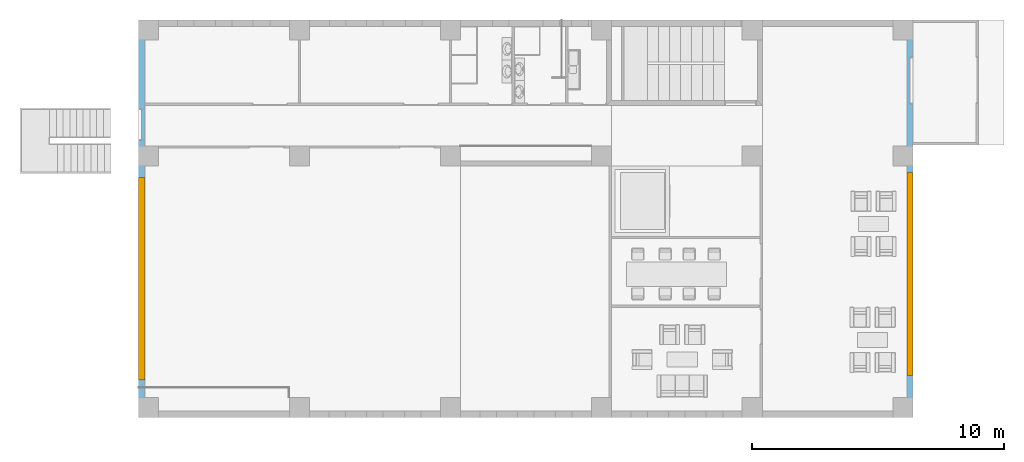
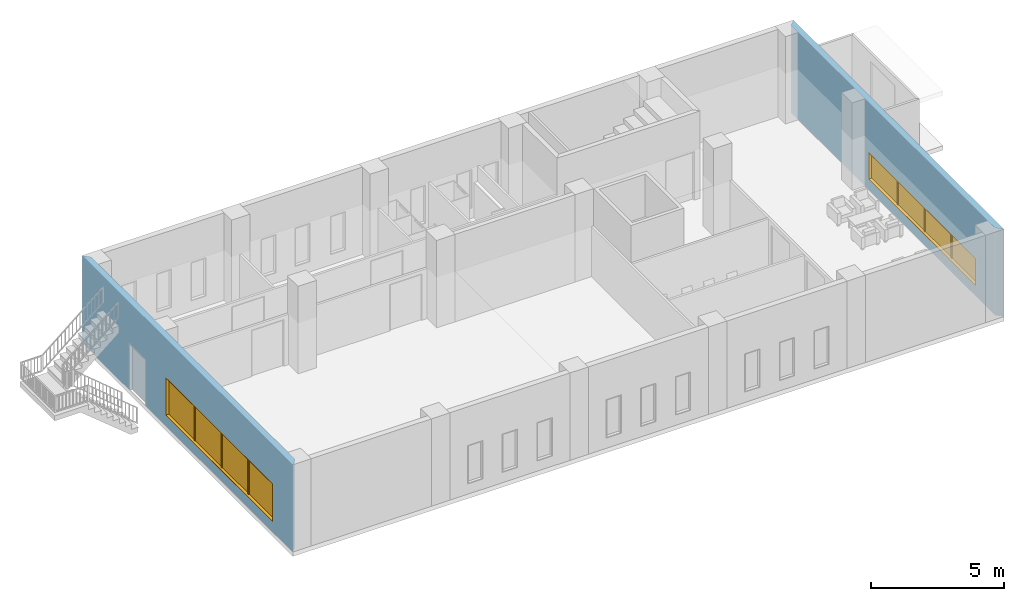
# One storey, part 7 of 17: 2 windows, 4 openings, plus 2 elements that do not belong to this part.
"""IFC2X3 building model written with IfcOpenShell, lengths in millimetres."""

from ifc_helpers import new_model, entity, si_unit, converted_unit, direction, frame, origin_with_axes, origin_2d_with_axis, place, context, project, spatial, polyline, rectangle, outline, extrude, open_shell, faceted_brep, surface_model, material, layer, layer_set, layer_usage, type_object, element, fill, save


model = new_model("IFC2X3")

# Units and contexts
model_context = context("Model", 3, precision=1e-05, world=origin_with_axes(), true_north=direction((0.0, 1.0)))
ifc_project = project(units=[si_unit("LENGTHUNIT", "METRE", prefix="MILLI"), si_unit("AREAUNIT", "SQUARE_METRE"), si_unit("VOLUMEUNIT", "CUBIC_METRE"), converted_unit("PLANEANGLEUNIT", "DEGREE", entity("IfcPlaneAngleMeasure", 0.017453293), si_unit("PLANEANGLEUNIT", "RADIAN"), dimensions=[0, 0, 0, 0, 0, 0, 0]), si_unit("SOLIDANGLEUNIT", "STERADIAN"), si_unit("MASSUNIT", "GRAM"), si_unit("TIMEUNIT", "SECOND"), si_unit("THERMODYNAMICTEMPERATUREUNIT", "DEGREE_CELSIUS"), si_unit("LUMINOUSINTENSITYUNIT", "LUMEN")], contexts=[model_context])

# Site, building, storey
site_placement = place(None, origin_with_axes())
site = spatial("IfcSite", under=ifc_project, at=site_placement, Name="\x83T\x83C\x83g", CompositionType="ELEMENT")
building_placement = place(site_placement, origin_with_axes())
building = spatial("IfcBuilding", under=site, at=building_placement, Name="Daitec-Sample 201208", CompositionType="ELEMENT")
storey_placement = place(building_placement, origin_with_axes())
storey = spatial("IfcBuildingStorey", under=building, at=storey_placement, Name="1F", CompositionType="ELEMENT", Elevation=0.0)

# Wall, openings, window
ifc_material_1 = material(Name="\x83R\x83\x93\x83N\x83\x8a\x81[\x83g-\x8d\\\x91¢2")
ifc_layer = layer(ifc_material_1, 250.0, ventilated="UNKNOWN")
ifc_layer_set = layer_set([ifc_layer], Name="\x83R\x83\x93\x83N\x83\x8a\x81[\x83g-\x8d\\\x91¢2 250")
ifc_layer_usage_1 = layer_usage(ifc_layer_set, "AXIS2", "POSITIVE", 0.0)
wall_type = type_object("IfcWallType", Name="\x83R\x83\x93\x83N\x83\x8a\x81[\x83g-\x8d\\\x91¢2 250", PredefinedType="NOTDEFINED")
wall_1_placement = place(storey_placement, frame((36900.0, 8000.0, 0.0), z_axis=(0.0, 0.0, 1.0), x_axis=(0.0, 1.0, 0.0)))
wall_1 = element("IfcWallStandardCase", 1, at=wall_1_placement, inside=storey, type_object=wall_type, material=ifc_layer_usage_1, Name="W7", context=model_context, shape_type="SweptSolid", body=[
    extrude(outline(polyline([(0.0, 0.0), (15800.0, 0.0), (15550.0, 250.0), (250.0, 250.0), (0.0, 0.0)])), origin_with_axes(), (0.0, 0.0, 1.0), 4000.0),
])
opening_1_placement = place(wall_1_placement, frame((5705.9474, 0.0, 500.0), z_axis=(0.0, 0.0, 1.0), x_axis=(1.0, 0.0, 0.0)))
opening_1 = element("IfcOpeningElement", 2, at=opening_1_placement, cuts=wall_1, context=model_context, shape_type="SweptSolid", body=[
    extrude(rectangle(XDim=8000.0, YDim=1200.0, at=origin_2d_with_axis()), frame((0.0, -1.0, 600.0), z_axis=(0.0, 1.0, 0.0), x_axis=(1.0, 0.0, 0.0)), (0.0, 0.0, 1.0), 252.0),
    extrude(rectangle(XDim=8000.0, YDim=1200.0, at=origin_2d_with_axis()), frame((0.0, 1.0, 600.0), z_axis=(0.0, -1.0, 0.0), x_axis=(1.0, 0.0, 0.0)), (0.0, 0.0, 1.0), 252.0),
    extrude(rectangle(XDim=8060.0, YDim=1260.0, at=origin_2d_with_axis()), frame((0.0, 126.0, 600.0), z_axis=(0.0, -1.0, 0.0), x_axis=(1.0, 0.0, 0.0)), (0.0, 0.0, 1.0), 252.0),
])
opening_2_placement = place(wall_1_placement, frame((13394.849, 0.0, 0.0), z_axis=(0.0, 0.0, 1.0), x_axis=(1.0, 0.0, 0.0)))
element("IfcOpeningElement", 3, at=opening_2_placement, cuts=wall_1, context=model_context, shape_type="SweptSolid", body=[
    extrude(rectangle(XDim=1860.0, YDim=2130.0, at=origin_2d_with_axis()), frame((0.0, 126.0, 1065.0), z_axis=(0.0, -1.0, 0.0), x_axis=(1.0, 0.0, 0.0)), (0.0, 0.0, 1.0), 252.0),
])
ifc_material_2 = material(Name="\x94w\x8ci")
window_style = type_object("IfcWindowStyle", Name="\x98A\x91\x95\x91\x8b\x82P_JX5", ConstructionType="NOTDEFINED", OperationType="NOTDEFINED", ParameterTakesPrecedence=False, Sizeable=False)
window_1_placement = place(opening_1_placement, frame((-4000.0, 0.0, 0.0), z_axis=(0.0, 0.0, 1.0), x_axis=(1.0, 0.0, 0.0)))
window_1 = element("IfcWindow", 4, at=window_1_placement, inside=storey, type_object=window_style, material=ifc_material_2, Name="AW7", OverallHeight=1200.0, OverallWidth=8000.0, context=model_context, shape_type="SurfaceModel", body=[
    surface_model("IfcShellBasedSurfaceModel", [(8000.0, 125.0, 0.0), (8000.0, 125.0, 1200.0), (6052.5, 125.0, 1200.0), (6052.5, 125.0, 0.0)], [open_shell([[[0, 1, 2, 3]]])]),
    surface_model("IfcShellBasedSurfaceModel", [(5982.5, 125.0, 0.0), (5982.5, 125.0, 1200.0), (4035.0, 125.0, 1200.0), (4035.0, 125.0, 0.0)], [open_shell([[[0, 1, 2, 3]]])]),
    surface_model("IfcShellBasedSurfaceModel", [(3965.0, 125.0, 0.0), (3965.0, 125.0, 1200.0), (2017.5, 125.0, 1200.0), (2017.5, 125.0, 0.0)], [open_shell([[[0, 1, 2, 3]]])]),
    surface_model("IfcShellBasedSurfaceModel", [(1947.5, 125.0, 0.0), (1947.5, 125.0, 1200.0), (0.0, 125.0, 1200.0), (0.0, 125.0, 0.0)], [open_shell([[[0, 1, 2, 3]]])]),
    faceted_brep([(6052.5, 160.0, 0.0), (5982.5, 160.0, 0.0), (5982.5, 160.0, 1200.0), (6052.5, 160.0, 1200.0), (6052.5, 90.0, 0.0), (5982.5, 90.0, 0.0), (5982.5, 90.0, 1200.0), (6052.5, 90.0, 1200.0)], [[[0, 1, 2, 3]], [[0, 4, 5, 1]], [[1, 5, 6, 2]], [[3, 2, 6, 7]], [[4, 0, 3, 7]], [[5, 4, 7, 6]]]),
    faceted_brep([(4035.0, 160.0, 0.0), (3965.0, 160.0, 0.0), (3965.0, 160.0, 1200.0), (4035.0, 160.0, 1200.0), (4035.0, 90.0, 0.0), (3965.0, 90.0, 0.0), (3965.0, 90.0, 1200.0), (4035.0, 90.0, 1200.0)], [[[0, 1, 2, 3]], [[0, 4, 5, 1]], [[1, 5, 6, 2]], [[3, 2, 6, 7]], [[4, 0, 3, 7]], [[5, 4, 7, 6]]]),
    faceted_brep([(2017.5, 160.0, 0.0), (1947.5, 160.0, 0.0), (1947.5, 160.0, 1200.0), (2017.5, 160.0, 1200.0), (2017.5, 90.0, 0.0), (1947.5, 90.0, 0.0), (1947.5, 90.0, 1200.0), (2017.5, 90.0, 1200.0)], [[[0, 1, 2, 3]], [[0, 4, 5, 1]], [[1, 5, 6, 2]], [[3, 2, 6, 7]], [[4, 0, 3, 7]], [[5, 4, 7, 6]]]),
    surface_model("IfcShellBasedSurfaceModel", [(8030.0, 0.0, -30.0), (8030.0, 0.0, 1230.0), (-30.0, 0.0, 1230.0), (-30.0, 0.0, -30.0), (8000.0, 0.0, 0.0), (0.0, 0.0, 0.0), (0.0, 0.0, 1200.0), (8000.0, 0.0, 1200.0)], [open_shell([[[0, 1, 2, 3], [4, 5, 6, 7]]])]),
    surface_model("IfcShellBasedSurfaceModel", [(8030.0, 250.0, -30.0), (8030.0, 250.0, 1230.0), (-30.0, 250.0, 1230.0), (-30.0, 250.0, -30.0), (8000.0, 250.0, 0.0), (0.0, 250.0, 0.0), (0.0, 250.0, 1200.0), (8000.0, 250.0, 1200.0)], [open_shell([[[0, 1, 2, 3], [4, 5, 6, 7]]])]),
    surface_model("IfcShellBasedSurfaceModel", [(8030.0, 0.0, -30.0), (-30.0, 0.0, -30.0), (-30.0, 250.0, -30.0), (8030.0, 250.0, -30.0), (-30.0, 0.0, 1230.0), (-30.0, 250.0, 1230.0), (8030.0, 0.0, 1230.0), (8030.0, 250.0, 1230.0)], [open_shell([[[0, 1, 2, 3]], [[1, 4, 5, 2]], [[6, 0, 3, 7]], [[4, 6, 7, 5]]])]),
    surface_model("IfcShellBasedSurfaceModel", [(8000.0, 0.0, 0.0), (0.0, 0.0, 0.0), (0.0, 250.0, 0.0), (8000.0, 250.0, 0.0), (0.0, 0.0, 1200.0), (0.0, 250.0, 1200.0), (8000.0, 0.0, 1200.0), (8000.0, 250.0, 1200.0)], [open_shell([[[0, 1, 2, 3]], [[1, 4, 5, 2]], [[6, 0, 3, 7]], [[4, 6, 7, 5]]])]),
])
fill(opening_1, window_1)

ifc_layer_usage_2 = layer_usage(ifc_layer_set, "AXIS2", "POSITIVE", 0.0)
wall_2_placement = place(storey_placement, frame((6100.0, 23800.0, 0.0), z_axis=(0.0, 0.0, 1.0), x_axis=(0.0, -1.0, 0.0)))
wall_2 = element("IfcWallStandardCase", 5, at=wall_2_placement, inside=storey, type_object=wall_type, material=ifc_layer_usage_2, Name="W9", context=model_context, shape_type="SweptSolid", body=[
    extrude(outline(polyline([(0.0, 0.0), (15800.0, 0.0), (15550.0, 250.0), (250.0, 250.0), (0.0, 0.0)])), origin_with_axes(), (0.0, 0.0, 1.0), 4000.0),
])
opening_3_placement = place(wall_2_placement, frame((10282.79, 0.0, 500.0), z_axis=(0.0, 0.0, 1.0), x_axis=(1.0, 0.0, 0.0)))
opening_3 = element("IfcOpeningElement", 6, at=opening_3_placement, cuts=wall_2, context=model_context, shape_type="SweptSolid", body=[
    extrude(rectangle(XDim=8000.0, YDim=1700.0, at=origin_2d_with_axis()), frame((0.0, 251.0, 850.0), z_axis=(0.0, -1.0, 0.0), x_axis=(1.0, 0.0, 0.0)), (0.0, 0.0, 1.0), 252.0),
    extrude(rectangle(XDim=8000.0, YDim=1700.0, at=origin_2d_with_axis()), frame((0.0, 249.0, 850.0), z_axis=(0.0, 1.0, 0.0), x_axis=(1.0, 0.0, 0.0)), (0.0, 0.0, 1.0), 252.0),
    extrude(rectangle(XDim=8060.0, YDim=1760.0, at=origin_2d_with_axis()), frame((0.0, 124.0, 850.0), z_axis=(0.0, 1.0, 0.0), x_axis=(1.0, 0.0, 0.0)), (0.0, 0.0, 1.0), 252.0),
])
opening_4_placement = place(wall_2_placement, frame((4155.9596, 0.0, 0.0), z_axis=(0.0, 0.0, 1.0), x_axis=(1.0, 0.0, 0.0)))
element("IfcOpeningElement", 7, at=opening_4_placement, cuts=wall_2, context=model_context, shape_type="SweptSolid", body=[
    extrude(rectangle(XDim=1260.0, YDim=2130.0, at=origin_2d_with_axis()), frame((0.0, 126.0, 1065.0), z_axis=(0.0, -1.0, 0.0), x_axis=(1.0, 0.0, 0.0)), (0.0, 0.0, 1.0), 252.0),
])
window_2_placement = place(opening_3_placement, frame((4000.0, 0.0, 0.0), z_axis=(0.0, 0.0, 1.0), x_axis=(-1.0, 0.0, 0.0)))
window_2 = element("IfcWindow", 8, at=window_2_placement, inside=storey, type_object=window_style, material=ifc_material_2, Name="AW6", OverallHeight=1700.0, OverallWidth=8000.0, context=model_context, shape_type="SurfaceModel", body=[
    surface_model("IfcShellBasedSurfaceModel", [(8000.0, -125.0, 0.0), (8000.0, -125.0, 1700.0), (6052.5, -125.0, 1700.0), (6052.5, -125.0, 0.0)], [open_shell([[[0, 1, 2, 3]]])]),
    surface_model("IfcShellBasedSurfaceModel", [(5982.5, -125.0, 0.0), (5982.5, -125.0, 1700.0), (4035.0, -125.0, 1700.0), (4035.0, -125.0, 0.0)], [open_shell([[[0, 1, 2, 3]]])]),
    surface_model("IfcShellBasedSurfaceModel", [(3965.0, -125.0, 0.0), (3965.0, -125.0, 1700.0), (2017.5, -125.0, 1700.0), (2017.5, -125.0, 0.0)], [open_shell([[[0, 1, 2, 3]]])]),
    surface_model("IfcShellBasedSurfaceModel", [(1947.5, -125.0, 0.0), (1947.5, -125.0, 1700.0), (0.0, -125.0, 1700.0), (0.0, -125.0, 0.0)], [open_shell([[[0, 1, 2, 3]]])]),
    faceted_brep([(6052.5, -90.0, 0.0), (5982.5, -90.0, 0.0), (5982.5, -90.0, 1700.0), (6052.5, -90.0, 1700.0), (6052.5, -160.0, 0.0), (5982.5, -160.0, 0.0), (5982.5, -160.0, 1700.0), (6052.5, -160.0, 1700.0)], [[[0, 1, 2, 3]], [[0, 4, 5, 1]], [[1, 5, 6, 2]], [[3, 2, 6, 7]], [[4, 0, 3, 7]], [[5, 4, 7, 6]]]),
    faceted_brep([(4035.0, -90.0, 0.0), (3965.0, -90.0, 0.0), (3965.0, -90.0, 1700.0), (4035.0, -90.0, 1700.0), (4035.0, -160.0, 0.0), (3965.0, -160.0, 0.0), (3965.0, -160.0, 1700.0), (4035.0, -160.0, 1700.0)], [[[0, 1, 2, 3]], [[0, 4, 5, 1]], [[1, 5, 6, 2]], [[3, 2, 6, 7]], [[4, 0, 3, 7]], [[5, 4, 7, 6]]]),
    faceted_brep([(2017.5, -90.0, 0.0), (1947.5, -90.0, 0.0), (1947.5, -90.0, 1700.0), (2017.5, -90.0, 1700.0), (2017.5, -160.0, 0.0), (1947.5, -160.0, 0.0), (1947.5, -160.0, 1700.0), (2017.5, -160.0, 1700.0)], [[[0, 1, 2, 3]], [[0, 4, 5, 1]], [[1, 5, 6, 2]], [[3, 2, 6, 7]], [[4, 0, 3, 7]], [[5, 4, 7, 6]]]),
    surface_model("IfcShellBasedSurfaceModel", [(8030.0, -250.0, -30.0), (8030.0, -250.0, 1730.0), (-30.0, -250.0, 1730.0), (-30.0, -250.0, -30.0), (8000.0, -250.0, 0.0), (0.0, -250.0, 0.0), (0.0, -250.0, 1700.0), (8000.0, -250.0, 1700.0)], [open_shell([[[0, 1, 2, 3], [4, 5, 6, 7]]])]),
    surface_model("IfcShellBasedSurfaceModel", [(8030.0, 0.0, -30.0), (8030.0, 0.0, 1730.0), (-30.0, 0.0, 1730.0), (-30.0, 0.0, -30.0), (8000.0, 0.0, 0.0), (0.0, 0.0, 0.0), (0.0, 0.0, 1700.0), (8000.0, 0.0, 1700.0)], [open_shell([[[0, 1, 2, 3], [4, 5, 6, 7]]])]),
    surface_model("IfcShellBasedSurfaceModel", [(8030.0, -250.0, -30.0), (-30.0, -250.0, -30.0), (-30.0, 0.0, -30.0), (8030.0, 0.0, -30.0), (-30.0, -250.0, 1730.0), (-30.0, 0.0, 1730.0), (8030.0, -250.0, 1730.0), (8030.0, 0.0, 1730.0)], [open_shell([[[0, 1, 2, 3]], [[1, 4, 5, 2]], [[6, 0, 3, 7]], [[4, 6, 7, 5]]])]),
    surface_model("IfcShellBasedSurfaceModel", [(8000.0, -250.0, 0.0), (0.0, -250.0, 0.0), (0.0, 0.0, 0.0), (8000.0, 0.0, 0.0), (0.0, -250.0, 1700.0), (0.0, 0.0, 1700.0), (8000.0, -250.0, 1700.0), (8000.0, 0.0, 1700.0)], [open_shell([[[0, 1, 2, 3]], [[1, 4, 5, 2]], [[6, 0, 3, 7]], [[4, 6, 7, 5]]])]),
])
fill(opening_3, window_2)

save(model, "model.ifc")
